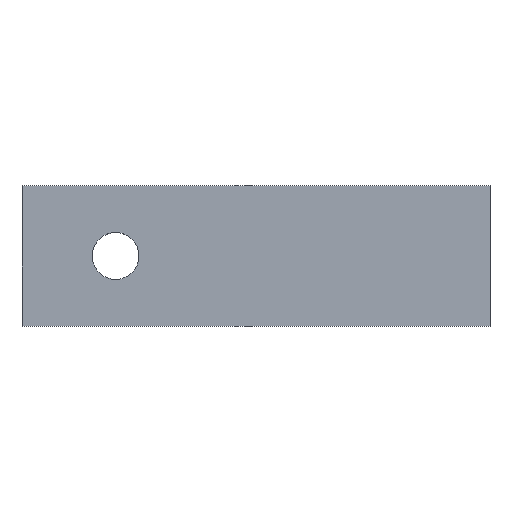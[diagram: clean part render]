
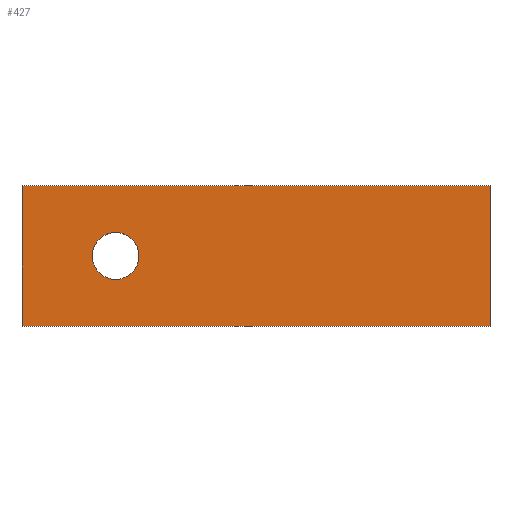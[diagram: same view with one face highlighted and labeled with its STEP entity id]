
A CAD part, top view. The second image highlights one B-rep face of the part: STEP entity #427.
In plain terms, the highlighted planar face has unit normal (0, 0, 1).
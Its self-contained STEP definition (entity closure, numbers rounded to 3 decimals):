
#24 = VERTEX_POINT('',#25);
#25 = CARTESIAN_POINT('',(20.,-6.,3.));
#32 = PLANE('',#33);
#33 = AXIS2_PLACEMENT_3D('',#34,#35,#36);
#34 = CARTESIAN_POINT('',(20.,-6.,0.));
#35 = DIRECTION('',(-0.,1.,-0.));
#36 = DIRECTION('',(1.,0.,0.));
#44 = PLANE('',#45);
#45 = AXIS2_PLACEMENT_3D('',#46,#47,#48);
#46 = CARTESIAN_POINT('',(20.,6.,0.));
#47 = DIRECTION('',(-1.,-0.,-0.));
#48 = DIRECTION('',(0.,1.,0.));
#56 = EDGE_CURVE('',#24,#57,#59,.T.);
#57 = VERTEX_POINT('',#58);
#58 = CARTESIAN_POINT('',(-20.,-6.,3.));
#59 = SURFACE_CURVE('',#60,(#64,#71),.PCURVE_S1.);
#60 = LINE('',#61,#62);
#61 = CARTESIAN_POINT('',(20.,-6.,3.));
#62 = VECTOR('',#63,1.);
#63 = DIRECTION('',(-1.,-0.,-0.));
#64 = PCURVE('',#32,#65);
#65 = DEFINITIONAL_REPRESENTATION('',(#66),#70);
#66 = LINE('',#67,#68);
#67 = CARTESIAN_POINT('',(-0.,-3.));
#68 = VECTOR('',#69,1.);
#69 = DIRECTION('',(-1.,0.));
#70 = ( GEOMETRIC_REPRESENTATION_CONTEXT(2) 
PARAMETRIC_REPRESENTATION_CONTEXT() REPRESENTATION_CONTEXT('2D SPACE',''
  ) );
#71 = PCURVE('',#72,#77);
#72 = PLANE('',#73);
#73 = AXIS2_PLACEMENT_3D('',#74,#75,#76);
#74 = CARTESIAN_POINT('',(0.,0.,3.));
#75 = DIRECTION('',(-0.,-0.,1.));
#76 = DIRECTION('',(1.,0.,0.));
#77 = DEFINITIONAL_REPRESENTATION('',(#78),#82);
#78 = LINE('',#79,#80);
#79 = CARTESIAN_POINT('',(20.,-6.));
#80 = VECTOR('',#81,1.);
#81 = DIRECTION('',(-1.,0.));
#82 = ( GEOMETRIC_REPRESENTATION_CONTEXT(2) 
PARAMETRIC_REPRESENTATION_CONTEXT() REPRESENTATION_CONTEXT('2D SPACE',''
  ) );
#100 = PLANE('',#101);
#101 = AXIS2_PLACEMENT_3D('',#102,#103,#104);
#102 = CARTESIAN_POINT('',(-20.,-6.,0.));
#103 = DIRECTION('',(1.,-0.,-0.));
#104 = DIRECTION('',(0.,-1.,0.));
#142 = EDGE_CURVE('',#57,#143,#145,.T.);
#143 = VERTEX_POINT('',#144);
#144 = CARTESIAN_POINT('',(-20.,6.,3.));
#145 = SURFACE_CURVE('',#146,(#150,#157),.PCURVE_S1.);
#146 = LINE('',#147,#148);
#147 = CARTESIAN_POINT('',(-20.,-6.,3.));
#148 = VECTOR('',#149,1.);
#149 = DIRECTION('',(-0.,1.,-0.));
#150 = PCURVE('',#100,#151);
#151 = DEFINITIONAL_REPRESENTATION('',(#152),#156);
#152 = LINE('',#153,#154);
#153 = CARTESIAN_POINT('',(-0.,-3.));
#154 = VECTOR('',#155,1.);
#155 = DIRECTION('',(-1.,0.));
#156 = ( GEOMETRIC_REPRESENTATION_CONTEXT(2) 
PARAMETRIC_REPRESENTATION_CONTEXT() REPRESENTATION_CONTEXT('2D SPACE',''
  ) );
#157 = PCURVE('',#72,#158);
#158 = DEFINITIONAL_REPRESENTATION('',(#159),#163);
#159 = LINE('',#160,#161);
#160 = CARTESIAN_POINT('',(-20.,-6.));
#161 = VECTOR('',#162,1.);
#162 = DIRECTION('',(-0.,1.));
#163 = ( GEOMETRIC_REPRESENTATION_CONTEXT(2) 
PARAMETRIC_REPRESENTATION_CONTEXT() REPRESENTATION_CONTEXT('2D SPACE',''
  ) );
#181 = PLANE('',#182);
#182 = AXIS2_PLACEMENT_3D('',#183,#184,#185);
#183 = CARTESIAN_POINT('',(-20.,6.,0.));
#184 = DIRECTION('',(-0.,-1.,-0.));
#185 = DIRECTION('',(-1.,0.,0.));
#218 = EDGE_CURVE('',#143,#219,#221,.T.);
#219 = VERTEX_POINT('',#220);
#220 = CARTESIAN_POINT('',(20.,6.,3.));
#221 = SURFACE_CURVE('',#222,(#226,#233),.PCURVE_S1.);
#222 = LINE('',#223,#224);
#223 = CARTESIAN_POINT('',(-20.,6.,3.));
#224 = VECTOR('',#225,1.);
#225 = DIRECTION('',(1.,-0.,-0.));
#226 = PCURVE('',#181,#227);
#227 = DEFINITIONAL_REPRESENTATION('',(#228),#232);
#228 = LINE('',#229,#230);
#229 = CARTESIAN_POINT('',(-0.,-3.));
#230 = VECTOR('',#231,1.);
#231 = DIRECTION('',(-1.,0.));
#232 = ( GEOMETRIC_REPRESENTATION_CONTEXT(2) 
PARAMETRIC_REPRESENTATION_CONTEXT() REPRESENTATION_CONTEXT('2D SPACE',''
  ) );
#233 = PCURVE('',#72,#234);
#234 = DEFINITIONAL_REPRESENTATION('',(#235),#239);
#235 = LINE('',#236,#237);
#236 = CARTESIAN_POINT('',(-20.,6.));
#237 = VECTOR('',#238,1.);
#238 = DIRECTION('',(1.,-0.));
#239 = ( GEOMETRIC_REPRESENTATION_CONTEXT(2) 
PARAMETRIC_REPRESENTATION_CONTEXT() REPRESENTATION_CONTEXT('2D SPACE',''
  ) );
#289 = EDGE_CURVE('',#219,#24,#290,.T.);
#290 = SURFACE_CURVE('',#291,(#295,#302),.PCURVE_S1.);
#291 = LINE('',#292,#293);
#292 = CARTESIAN_POINT('',(20.,6.,3.));
#293 = VECTOR('',#294,1.);
#294 = DIRECTION('',(-0.,-1.,-0.));
#295 = PCURVE('',#44,#296);
#296 = DEFINITIONAL_REPRESENTATION('',(#297),#301);
#297 = LINE('',#298,#299);
#298 = CARTESIAN_POINT('',(-0.,-3.));
#299 = VECTOR('',#300,1.);
#300 = DIRECTION('',(-1.,0.));
#301 = ( GEOMETRIC_REPRESENTATION_CONTEXT(2) 
PARAMETRIC_REPRESENTATION_CONTEXT() REPRESENTATION_CONTEXT('2D SPACE',''
  ) );
#302 = PCURVE('',#72,#303);
#303 = DEFINITIONAL_REPRESENTATION('',(#304),#308);
#304 = LINE('',#305,#306);
#305 = CARTESIAN_POINT('',(20.,6.));
#306 = VECTOR('',#307,1.);
#307 = DIRECTION('',(-0.,-1.));
#308 = ( GEOMETRIC_REPRESENTATION_CONTEXT(2) 
PARAMETRIC_REPRESENTATION_CONTEXT() REPRESENTATION_CONTEXT('2D SPACE',''
  ) );
#338 = VERTEX_POINT('',#339);
#339 = CARTESIAN_POINT('',(-14.,0.,3.));
#346 = CYLINDRICAL_SURFACE('',#347,2.);
#347 = AXIS2_PLACEMENT_3D('',#348,#349,#350);
#348 = CARTESIAN_POINT('',(-12.,0.,0.));
#349 = DIRECTION('',(0.,-0.,-1.));
#350 = DIRECTION('',(-1.,-0.,-0.));
#365 = EDGE_CURVE('',#338,#338,#366,.T.);
#366 = SURFACE_CURVE('',#367,(#372,#379),.PCURVE_S1.);
#367 = CIRCLE('',#368,2.);
#368 = AXIS2_PLACEMENT_3D('',#369,#370,#371);
#369 = CARTESIAN_POINT('',(-12.,0.,3.));
#370 = DIRECTION('',(0.,0.,-1.));
#371 = DIRECTION('',(-1.,-0.,-0.));
#372 = PCURVE('',#346,#373);
#373 = DEFINITIONAL_REPRESENTATION('',(#374),#378);
#374 = LINE('',#375,#376);
#375 = CARTESIAN_POINT('',(0.,-3.));
#376 = VECTOR('',#377,1.);
#377 = DIRECTION('',(1.,0.));
#378 = ( GEOMETRIC_REPRESENTATION_CONTEXT(2) 
PARAMETRIC_REPRESENTATION_CONTEXT() REPRESENTATION_CONTEXT('2D SPACE',''
  ) );
#379 = PCURVE('',#72,#380);
#380 = DEFINITIONAL_REPRESENTATION('',(#381),#389);
#381 = ( BOUNDED_CURVE() B_SPLINE_CURVE(2,(#382,#383,#384,#385,#386,#387
,#388),.UNSPECIFIED.,.T.,.F.) B_SPLINE_CURVE_WITH_KNOTS((1,2,2,2,2,1),(
    -2.094,0.,2.094,4.189,6.283,
8.378),.UNSPECIFIED.) CURVE() GEOMETRIC_REPRESENTATION_ITEM() 
RATIONAL_B_SPLINE_CURVE((1.,0.5,1.,0.5,1.,0.5,1.)) REPRESENTATION_ITEM(
  '') );
#382 = CARTESIAN_POINT('',(-14.,0.));
#383 = CARTESIAN_POINT('',(-14.,3.464));
#384 = CARTESIAN_POINT('',(-11.,1.732));
#385 = CARTESIAN_POINT('',(-8.,0.));
#386 = CARTESIAN_POINT('',(-11.,-1.732));
#387 = CARTESIAN_POINT('',(-14.,-3.464));
#388 = CARTESIAN_POINT('',(-14.,0.));
#389 = ( GEOMETRIC_REPRESENTATION_CONTEXT(2) 
PARAMETRIC_REPRESENTATION_CONTEXT() REPRESENTATION_CONTEXT('2D SPACE',''
  ) );
#427 = ADVANCED_FACE('',(#428,#434),#72,.T.);
#428 = FACE_BOUND('',#429,.F.);
#429 = EDGE_LOOP('',(#430,#431,#432,#433));
#430 = ORIENTED_EDGE('',*,*,#56,.T.);
#431 = ORIENTED_EDGE('',*,*,#142,.T.);
#432 = ORIENTED_EDGE('',*,*,#218,.T.);
#433 = ORIENTED_EDGE('',*,*,#289,.T.);
#434 = FACE_BOUND('',#435,.T.);
#435 = EDGE_LOOP('',(#436));
#436 = ORIENTED_EDGE('',*,*,#365,.T.);
